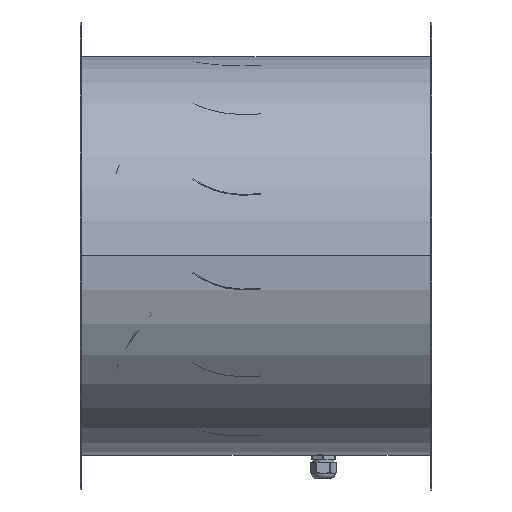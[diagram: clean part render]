
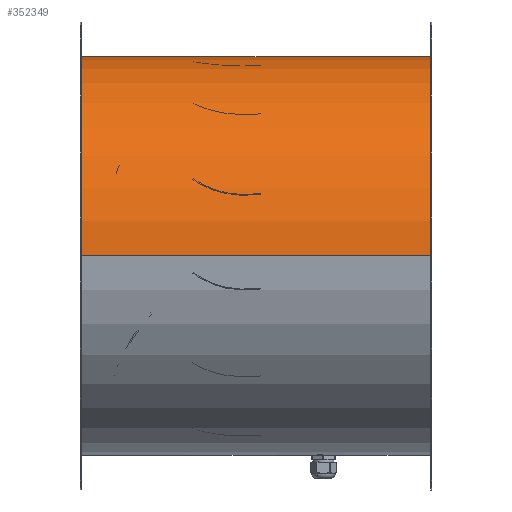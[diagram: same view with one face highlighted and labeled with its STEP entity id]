
A CAD part, top view. The second image highlights one B-rep face of the part: STEP entity #352349.
In plain terms, the highlighted cylindrical face has radius 251.25 mm (diameter 502.5 mm), a partial arc.
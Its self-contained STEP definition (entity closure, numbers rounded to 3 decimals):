
#1569 = CARTESIAN_POINT ( 'NONE',  ( -125.625, 0., 0. ) ) ;
#31533 = DIRECTION ( 'NONE',  ( 0., 0., 1. ) ) ;
#32474 = EDGE_CURVE ( 'NONE', #345209, #381759, #38470, .T. ) ;
#37731 = DIRECTION ( 'NONE',  ( 1., 0., 0. ) ) ;
#38470 = LINE ( 'NONE', #73722, #108275 ) ;
#39015 = DIRECTION ( 'NONE',  ( 0., 0., 1. ) ) ;
#39764 = ORIENTED_EDGE ( 'NONE', *, *, #205934, .T. ) ;
#41992 = CIRCLE ( 'NONE', #65398, 251.25 ) ;
#47246 = AXIS2_PLACEMENT_3D ( 'NONE', #190071, #37731, #39015 ) ;
#50493 = VERTEX_POINT ( 'NONE', #284660 ) ;
#52400 = DIRECTION ( 'NONE',  ( 1., 0., 0. ) ) ;
#58509 = VERTEX_POINT ( 'NONE', #298105 ) ;
#63650 = DIRECTION ( 'NONE',  ( 1., 0., 0. ) ) ;
#65398 = AXIS2_PLACEMENT_3D ( 'NONE', #230869, #52400, #260807 ) ;
#66613 = VERTEX_POINT ( 'NONE', #252645 ) ;
#69008 = ORIENTED_EDGE ( 'NONE', *, *, #117405, .F. ) ;
#73722 = CARTESIAN_POINT ( 'NONE',  ( -125., 0., -251.25 ) ) ;
#74630 = DIRECTION ( 'NONE',  ( 1., 0., 0. ) ) ;
#78344 = EDGE_CURVE ( 'NONE', #86674, #66613, #275571, .T. ) ;
#78871 = CIRCLE ( 'NONE', #360345, 251.25 ) ;
#86674 = VERTEX_POINT ( 'NONE', #96841 ) ;
#94818 = DIRECTION ( 'NONE',  ( 1., 0., 0. ) ) ;
#96841 = CARTESIAN_POINT ( 'NONE',  ( 313., 0., -251.25 ) ) ;
#96936 = ORIENTED_EDGE ( 'NONE', *, *, #78344, .F. ) ;
#103790 = AXIS2_PLACEMENT_3D ( 'NONE', #132971, #341466, #162905 ) ;
#106643 = EDGE_CURVE ( 'NONE', #345209, #58509, #299097, .T. ) ;
#108275 = VECTOR ( 'NONE', #222263, 1000. ) ;
#117405 = EDGE_CURVE ( 'NONE', #381759, #50493, #41992, .T. ) ;
#117653 = VECTOR ( 'NONE', #63650, 1000. ) ;
#121168 = EDGE_CURVE ( 'NONE', #86674, #242599, #78871, .T. ) ;
#132971 = CARTESIAN_POINT ( 'NONE',  ( 313.625, 0., 0. ) ) ;
#158114 = ORIENTED_EDGE ( 'NONE', *, *, #106643, .T. ) ;
#162905 = DIRECTION ( 'NONE',  ( 0., 0., 1. ) ) ;
#163161 = CARTESIAN_POINT ( 'NONE',  ( -125.625, 0., -251.25 ) ) ;
#169343 = ORIENTED_EDGE ( 'NONE', *, *, #32474, .F. ) ;
#187799 = CARTESIAN_POINT ( 'NONE',  ( -125., 0., -251.25 ) ) ;
#190071 = CARTESIAN_POINT ( 'NONE',  ( -125., 0., 0. ) ) ;
#205934 = EDGE_CURVE ( 'NONE', #58509, #374844, #206271, .T. ) ;
#206271 = LINE ( 'NONE', #359432, #117653 ) ;
#210011 = DIRECTION ( 'NONE',  ( 1., 0., 0. ) ) ;
#217787 = DIRECTION ( 'NONE',  ( 1., 0., 0. ) ) ;
#222263 = DIRECTION ( 'NONE',  ( 1., 0., 0. ) ) ;
#230869 = CARTESIAN_POINT ( 'NONE',  ( -125., 0., 0. ) ) ;
#240040 = CARTESIAN_POINT ( 'NONE',  ( 313., 3.015, -251.232 ) ) ;
#242599 = VERTEX_POINT ( 'NONE', #240040 ) ;
#248707 = ORIENTED_EDGE ( 'NONE', *, *, #362682, .F. ) ;
#252368 = VECTOR ( 'NONE', #217787, 1000. ) ;
#252645 = CARTESIAN_POINT ( 'NONE',  ( 313.625, 0., -251.25 ) ) ;
#253109 = CARTESIAN_POINT ( 'NONE',  ( 313., 0., 0. ) ) ;
#260807 = DIRECTION ( 'NONE',  ( 0., 0., 1. ) ) ;
#275571 = LINE ( 'NONE', #187799, #252368 ) ;
#276753 = FACE_OUTER_BOUND ( 'NONE', #320546, .T. ) ;
#277038 = AXIS2_PLACEMENT_3D ( 'NONE', #1569, #210011, #31533 ) ;
#277160 = ORIENTED_EDGE ( 'NONE', *, *, #318811, .F. ) ;
#283071 = DIRECTION ( 'NONE',  ( 0., 0., 1. ) ) ;
#284660 = CARTESIAN_POINT ( 'NONE',  ( -125., 3.015, -251.232 ) ) ;
#298105 = CARTESIAN_POINT ( 'NONE',  ( -125.625, 0., 251.25 ) ) ;
#299097 = CIRCLE ( 'NONE', #277038, 251.25 ) ;
#303269 = CARTESIAN_POINT ( 'NONE',  ( -125., 3.015, -251.232 ) ) ;
#318811 = EDGE_CURVE ( 'NONE', #66613, #374844, #367159, .T. ) ;
#320546 = EDGE_LOOP ( 'NONE', ( #169343, #158114, #39764, #277160, #96936, #337585, #248707, #69008 ) ) ;
#327197 = LINE ( 'NONE', #303269, #345919 ) ;
#327949 = CYLINDRICAL_SURFACE ( 'NONE', #47246, 251.25 ) ;
#337585 = ORIENTED_EDGE ( 'NONE', *, *, #121168, .T. ) ;
#338729 = CARTESIAN_POINT ( 'NONE',  ( 313.625, 0., 251.25 ) ) ;
#341466 = DIRECTION ( 'NONE',  ( 1., 0., 0. ) ) ;
#345209 = VERTEX_POINT ( 'NONE', #163161 ) ;
#345919 = VECTOR ( 'NONE', #94818, 1000. ) ;
#352349 = ADVANCED_FACE ( 'NONE', ( #276753 ), #327949, .T. ) ;
#359432 = CARTESIAN_POINT ( 'NONE',  ( -125., 0., 251.25 ) ) ;
#360345 = AXIS2_PLACEMENT_3D ( 'NONE', #253109, #74630, #283071 ) ;
#362682 = EDGE_CURVE ( 'NONE', #50493, #242599, #327197, .T. ) ;
#367159 = CIRCLE ( 'NONE', #103790, 251.25 ) ;
#374844 = VERTEX_POINT ( 'NONE', #338729 ) ;
#380843 = CARTESIAN_POINT ( 'NONE',  ( -125., 0., -251.25 ) ) ;
#381759 = VERTEX_POINT ( 'NONE', #380843 ) ;
